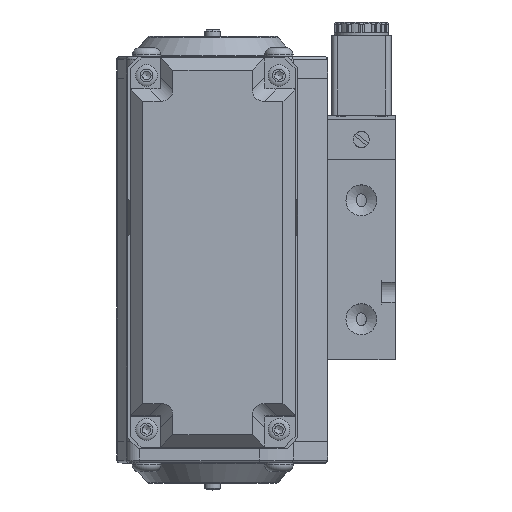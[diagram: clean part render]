
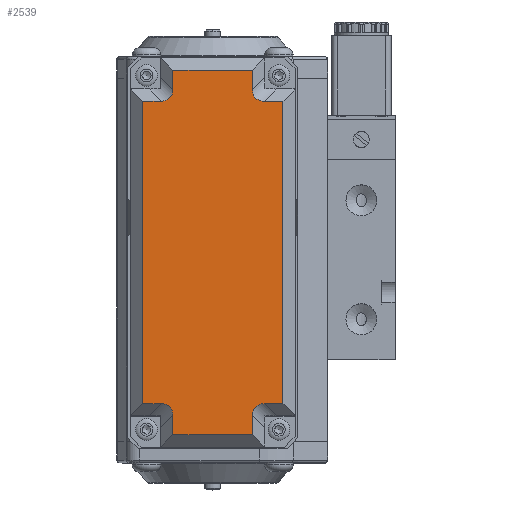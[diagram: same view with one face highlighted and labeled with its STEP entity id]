
A CAD part, top view. The second image highlights one B-rep face of the part: STEP entity #2539.
In plain terms, the highlighted planar face has unit normal (0, 0, 1) as drawn and (0, 1, 0) by its records, which use the part's own axes.
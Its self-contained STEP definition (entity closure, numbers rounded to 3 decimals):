
#2539 = ADVANCED_FACE( '', ( #5788 ), #5789, .T. );
#5788 = FACE_OUTER_BOUND( '', #10274, .T. );
#5789 = PLANE( '', #10275 );
#10274 = EDGE_LOOP( '', ( #17147, #17148, #17149, #17150, #17151, #17152, #17153, #17154, #17155, #17156, #17157, #17158, #17159, #17160, #17161, #17162 ) );
#10275 = AXIS2_PLACEMENT_3D( '', #17163, #17164, #17165 );
#17147 = ORIENTED_EDGE( '', *, *, #27916, .F. );
#17148 = ORIENTED_EDGE( '', *, *, #27917, .F. );
#17149 = ORIENTED_EDGE( '', *, *, #27918, .F. );
#17150 = ORIENTED_EDGE( '', *, *, #26226, .F. );
#17151 = ORIENTED_EDGE( '', *, *, #27919, .F. );
#17152 = ORIENTED_EDGE( '', *, *, #27006, .F. );
#17153 = ORIENTED_EDGE( '', *, *, #27920, .F. );
#17154 = ORIENTED_EDGE( '', *, *, #27921, .F. );
#17155 = ORIENTED_EDGE( '', *, *, #27922, .F. );
#17156 = ORIENTED_EDGE( '', *, *, #26798, .F. );
#17157 = ORIENTED_EDGE( '', *, *, #26431, .F. );
#17158 = ORIENTED_EDGE( '', *, *, #26619, .F. );
#17159 = ORIENTED_EDGE( '', *, *, #27923, .F. );
#17160 = ORIENTED_EDGE( '', *, *, #27924, .F. );
#17161 = ORIENTED_EDGE( '', *, *, #27925, .F. );
#17162 = ORIENTED_EDGE( '', *, *, #27926, .F. );
#17163 = CARTESIAN_POINT( '', ( -75., 55., 0. ) );
#17164 = DIRECTION( '', ( 0., 1., 0. ) );
#17165 = DIRECTION( '', ( 1., 0., 0. ) );
#26226 = EDGE_CURVE( '', #30627, #30629, #30630, .T. );
#26431 = EDGE_CURVE( '', #30997, #31000, #31001, .T. );
#26619 = EDGE_CURVE( '', #31328, #30997, #31330, .T. );
#26798 = EDGE_CURVE( '', #31000, #31634, #31635, .T. );
#27006 = EDGE_CURVE( '', #31987, #31989, #31990, .T. );
#27916 = EDGE_CURVE( '', #33483, #33484, #33485, .T. );
#27917 = EDGE_CURVE( '', #33486, #33483, #33487, .T. );
#27918 = EDGE_CURVE( '', #30629, #33486, #33488, .T. );
#27919 = EDGE_CURVE( '', #31989, #30627, #33489, .T. );
#27920 = EDGE_CURVE( '', #33490, #31987, #33491, .T. );
#27921 = EDGE_CURVE( '', #33492, #33490, #33493, .T. );
#27922 = EDGE_CURVE( '', #31634, #33492, #33494, .T. );
#27923 = EDGE_CURVE( '', #33495, #31328, #33496, .T. );
#27924 = EDGE_CURVE( '', #33497, #33495, #33498, .T. );
#27925 = EDGE_CURVE( '', #33499, #33497, #33500, .T. );
#27926 = EDGE_CURVE( '', #33484, #33499, #33501, .T. );
#30627 = VERTEX_POINT( '', #37093 );
#30629 = VERTEX_POINT( '', #37096 );
#30630 = ELLIPSE( '', #37097, 10.392, 6. );
#30997 = VERTEX_POINT( '', #37597 );
#31000 = VERTEX_POINT( '', #37601 );
#31001 = LINE( '', #37602, #37603 );
#31328 = VERTEX_POINT( '', #38141 );
#31330 = ELLIPSE( '', #38144, 10.392, 6. );
#31634 = VERTEX_POINT( '', #38615 );
#31635 = LINE( '', #38616, #38617 );
#31987 = VERTEX_POINT( '', #39194 );
#31989 = VERTEX_POINT( '', #39197 );
#31990 = LINE( '', #39198, #39199 );
#33483 = VERTEX_POINT( '', #41914 );
#33484 = VERTEX_POINT( '', #41915 );
#33485 = LINE( '', #41916, #41917 );
#33486 = VERTEX_POINT( '', #41918 );
#33487 = LINE( '', #41919, #41920 );
#33488 = LINE( '', #41921, #41922 );
#33489 = LINE( '', #41923, #41924 );
#33490 = VERTEX_POINT( '', #41925 );
#33491 = LINE( '', #41926, #41927 );
#33492 = VERTEX_POINT( '', #41928 );
#33493 = ELLIPSE( '', #41929, 10.392, 6. );
#33494 = LINE( '', #41930, #41931 );
#33495 = VERTEX_POINT( '', #41932 );
#33496 = LINE( '', #41933, #41934 );
#33497 = VERTEX_POINT( '', #41935 );
#33498 = LINE( '', #41936, #41937 );
#33499 = VERTEX_POINT( '', #41938 );
#33500 = LINE( '', #41939, #41940 );
#33501 = ELLIPSE( '', #41941, 10.392, 6. );
#37093 = CARTESIAN_POINT( '', ( -63.243, 55., 15.75 ) );
#37096 = CARTESIAN_POINT( '', ( -59., 55., 11.507 ) );
#37097 = AXIS2_PLACEMENT_3D( '', #48098, #48099, #48100 );
#37597 = CARTESIAN_POINT( '', ( 53., 55., 49.493 ) );
#37601 = CARTESIAN_POINT( '', ( 53., 55., 56.5 ) );
#37602 = CARTESIAN_POINT( '', ( 53., 55., 49.493 ) );
#37603 = VECTOR( '', #48436, 1000. );
#38141 = CARTESIAN_POINT( '', ( 57.243, 55., 45.25 ) );
#38144 = AXIS2_PLACEMENT_3D( '', #48615, #48616, #48617 );
#38615 = CARTESIAN_POINT( '', ( -59., 55., 56.5 ) );
#38616 = CARTESIAN_POINT( '', ( 53., 55., 56.5 ) );
#38617 = VECTOR( '', #48834, 1000. );
#39194 = CARTESIAN_POINT( '', ( -70.5, 55., 45.25 ) );
#39197 = CARTESIAN_POINT( '', ( -70.5, 55., 15.75 ) );
#39198 = CARTESIAN_POINT( '', ( -70.5, 55., 45.25 ) );
#39199 = VECTOR( '', #49059, 1000. );
#41914 = CARTESIAN_POINT( '', ( 53., 55., 4.5 ) );
#41915 = CARTESIAN_POINT( '', ( 53., 55., 11.507 ) );
#41916 = CARTESIAN_POINT( '', ( 53., 55., 4.5 ) );
#41917 = VECTOR( '', #49993, 1000. );
#41918 = CARTESIAN_POINT( '', ( -59., 55., 4.5 ) );
#41919 = CARTESIAN_POINT( '', ( -59., 55., 4.5 ) );
#41920 = VECTOR( '', #49994, 1000. );
#41921 = CARTESIAN_POINT( '', ( -59., 55., 11.507 ) );
#41922 = VECTOR( '', #49995, 1000. );
#41923 = CARTESIAN_POINT( '', ( -70.5, 55., 15.75 ) );
#41924 = VECTOR( '', #49996, 1000. );
#41925 = CARTESIAN_POINT( '', ( -63.243, 55., 45.25 ) );
#41926 = CARTESIAN_POINT( '', ( -63.243, 55., 45.25 ) );
#41927 = VECTOR( '', #49997, 1000. );
#41928 = CARTESIAN_POINT( '', ( -59., 55., 49.493 ) );
#41929 = AXIS2_PLACEMENT_3D( '', #49998, #49999, #50000 );
#41930 = CARTESIAN_POINT( '', ( -59., 55., 56.5 ) );
#41931 = VECTOR( '', #50001, 1000. );
#41932 = CARTESIAN_POINT( '', ( 64.5, 55., 45.25 ) );
#41933 = CARTESIAN_POINT( '', ( 64.5, 55., 45.25 ) );
#41934 = VECTOR( '', #50002, 1000. );
#41935 = CARTESIAN_POINT( '', ( 64.5, 55., 15.75 ) );
#41936 = CARTESIAN_POINT( '', ( 64.5, 55., 15.75 ) );
#41937 = VECTOR( '', #50003, 1000. );
#41938 = CARTESIAN_POINT( '', ( 57.243, 55., 15.75 ) );
#41939 = CARTESIAN_POINT( '', ( 57.243, 55., 15.75 ) );
#41940 = VECTOR( '', #50004, 1000. );
#41941 = AXIS2_PLACEMENT_3D( '', #50005, #50006, #50007 );
#48098 = CARTESIAN_POINT( '', ( -67.485, 55., 7.265 ) );
#48099 = DIRECTION( '', ( 0., 1., 0. ) );
#48100 = DIRECTION( '', ( 0.707, 0., 0.707 ) );
#48436 = DIRECTION( '', ( 0., 0., 1. ) );
#48615 = CARTESIAN_POINT( '', ( 61.485, 55., 53.735 ) );
#48616 = DIRECTION( '', ( 0., 1., 0. ) );
#48617 = DIRECTION( '', ( -0.707, 0., -0.707 ) );
#48834 = DIRECTION( '', ( -1., 0., 0. ) );
#49059 = DIRECTION( '', ( 0., 0., -1. ) );
#49993 = DIRECTION( '', ( 0., 0., 1. ) );
#49994 = DIRECTION( '', ( 1., 0., 0. ) );
#49995 = DIRECTION( '', ( 0., 0., -1. ) );
#49996 = DIRECTION( '', ( 1., 0., 0. ) );
#49997 = DIRECTION( '', ( -1., 0., 0. ) );
#49998 = CARTESIAN_POINT( '', ( -67.485, 55., 53.735 ) );
#49999 = DIRECTION( '', ( 0., 1., 0. ) );
#50000 = DIRECTION( '', ( 0.707, 0., -0.707 ) );
#50001 = DIRECTION( '', ( 0., 0., -1. ) );
#50002 = DIRECTION( '', ( -1., 0., 0. ) );
#50003 = DIRECTION( '', ( 0., 0., 1. ) );
#50004 = DIRECTION( '', ( 1., 0., 0. ) );
#50005 = CARTESIAN_POINT( '', ( 61.485, 55., 7.265 ) );
#50006 = DIRECTION( '', ( 0., 1., 0. ) );
#50007 = DIRECTION( '', ( -0.707, 0., 0.707 ) );
